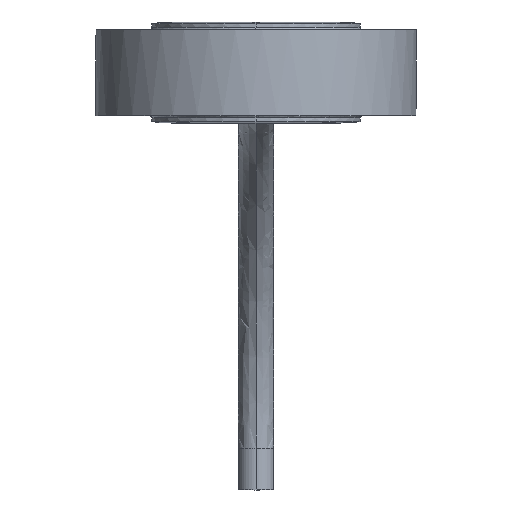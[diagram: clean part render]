
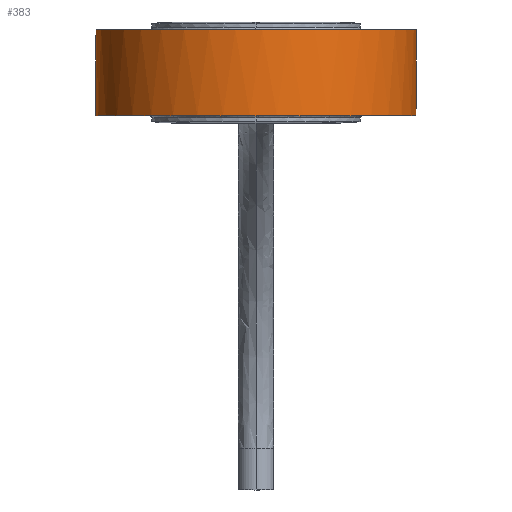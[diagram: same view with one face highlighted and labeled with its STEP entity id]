
A CAD part, front view. The second image highlights one B-rep face of the part: STEP entity #383.
In plain terms, the highlighted free-form (B-spline) face has degree [10, 1] with [11, 2] control points.
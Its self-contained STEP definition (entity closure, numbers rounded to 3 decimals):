
#14 = CARTESIAN_POINT ( 'NONE',  ( 3.25, 13.051, 3.438 ) ) ;
#30 = VERTEX_POINT ( 'NONE', #1847 ) ;
#72 = CARTESIAN_POINT ( 'NONE',  ( 3.25, 13.051, 7.85 ) ) ;
#101 = CARTESIAN_POINT ( 'NONE',  ( -3.25, 13.051, 0.65 ) ) ;
#130 = CARTESIAN_POINT ( 'NONE',  ( 1.719, 13.34, 7.994 ) ) ;
#207 = CARTESIAN_POINT ( 'NONE',  ( -3.25, 13.051, 4.25 ) ) ;
#251 = EDGE_CURVE ( 'NONE', #1606, #1219, #2437, .T. ) ;
#279 = EDGE_CURVE ( 'NONE', #332, #30, #2097, .T. ) ;
#305 = CARTESIAN_POINT ( 'NONE',  ( -17.105, 5.884, 0.506 ) ) ;
#332 = VERTEX_POINT ( 'NONE', #1323 ) ;
#348 = CARTESIAN_POINT ( 'NONE',  ( -19.693, -5.4, 7.994 ) ) ;
#369 = CARTESIAN_POINT ( 'NONE',  ( 3.25, 13.051, 0.65 ) ) ;
#378 = ORIENTED_EDGE ( 'NONE', *, *, #1006, .T. ) ;
#383 = ADVANCED_FACE ( 'NONE', ( #1990 ), #2642, .T. ) ;
#417 = CARTESIAN_POINT ( 'NONE',  ( 3.25, 13.051, 0.65 ) ) ;
#420 = CARTESIAN_POINT ( 'NONE',  ( 3.25, 13.051, 7.85 ) ) ;
#478 = CARTESIAN_POINT ( 'NONE',  ( 10.813, 11.168, 7.85 ) ) ;
#538 = EDGE_CURVE ( 'NONE', #2696, #332, #1870, .T. ) ;
#552 = LINE ( 'NONE', #2011, #652 ) ;
#627 = CARTESIAN_POINT ( 'NONE',  ( 10.813, 11.168, 0.65 ) ) ;
#639 = VECTOR ( 'NONE', #992, 1000. ) ;
#648 = ORIENTED_EDGE ( 'NONE', *, *, #1309, .T. ) ;
#652 = VECTOR ( 'NONE', #1152, 1000. ) ;
#680 = VERTEX_POINT ( 'NONE', #929 ) ;
#733 = LINE ( 'NONE', #2422, #1836 ) ;
#801 = DIRECTION ( 'NONE',  ( 0., 0., 1. ) ) ;
#834 = CARTESIAN_POINT ( 'NONE',  ( -18.772, -6.331, 0.65 ) ) ;
#839 = LINE ( 'NONE', #14, #2391 ) ;
#912 = CARTESIAN_POINT ( 'NONE',  ( 18.761, -6.332, 7.85 ) ) ;
#923 = CARTESIAN_POINT ( 'NONE',  ( 17.161, 4.414, 7.85 ) ) ;
#927 = CARTESIAN_POINT ( 'NONE',  ( 9.759, 12.304, 0.506 ) ) ;
#929 = CARTESIAN_POINT ( 'NONE',  ( 3.25, 13.051, 5.062 ) ) ;
#941 = CARTESIAN_POINT ( 'NONE',  ( -9.759, 12.304, 0.506 ) ) ;
#956 = CARTESIAN_POINT ( 'NONE',  ( -0.042, -23.524, 0.506 ) ) ;
#968 = CARTESIAN_POINT ( 'NONE',  ( -13.989, -17.502, 0.506 ) ) ;
#992 = DIRECTION ( 'NONE',  ( 0., 0., -1. ) ) ;
#1006 = EDGE_CURVE ( 'NONE', #1782, #1606, #733, .T. ) ;
#1039 = EDGE_CURVE ( 'NONE', #680, #2696, #552, .T. ) ;
#1049 = DIRECTION ( 'NONE',  ( 0., 0., -1. ) ) ;
#1118 = VECTOR ( 'NONE', #801, 1000. ) ;
#1152 = DIRECTION ( 'NONE',  ( 0., 0., 1. ) ) ;
#1186 = CARTESIAN_POINT ( 'NONE',  ( -19.693, -5.4, 0.506 ) ) ;
#1202 = CARTESIAN_POINT ( 'NONE',  ( 1.719, 13.34, 0.506 ) ) ;
#1211 = LINE ( 'NONE', #1399, #639 ) ;
#1219 = VERTEX_POINT ( 'NONE', #2450 ) ;
#1252 = CARTESIAN_POINT ( 'NONE',  ( 18.761, -6.332, 0.65 ) ) ;
#1269 = CARTESIAN_POINT ( 'NONE',  ( -3.25, 13.051, 0.65 ) ) ;
#1272 = EDGE_CURVE ( 'NONE', #30, #1782, #1211, .T. ) ;
#1309 = EDGE_CURVE ( 'NONE', #1219, #2596, #2064, .T. ) ;
#1314 = CARTESIAN_POINT ( 'NONE',  ( 12.912, -17.257, 7.85 ) ) ;
#1323 = CARTESIAN_POINT ( 'NONE',  ( -3.25, 13.051, 7.85 ) ) ;
#1351 = CARTESIAN_POINT ( 'NONE',  ( -13.989, -17.502, 7.994 ) ) ;
#1393 = CARTESIAN_POINT ( 'NONE',  ( -0.042, -23.524, 7.994 ) ) ;
#1395 = ORIENTED_EDGE ( 'NONE', *, *, #251, .T. ) ;
#1399 = CARTESIAN_POINT ( 'NONE',  ( -3.25, 13.051, 4.25 ) ) ;
#1401 = VECTOR ( 'NONE', #1049, 1000. ) ;
#1426 = ORIENTED_EDGE ( 'NONE', *, *, #2484, .T. ) ;
#1555 = DIRECTION ( 'NONE',  ( 0., 0., -1. ) ) ;
#1559 = CARTESIAN_POINT ( 'NONE',  ( -12.87, -17.257, 7.85 ) ) ;
#1565 = CARTESIAN_POINT ( 'NONE',  ( 3.25, 13.051, 3.438 ) ) ;
#1575 = ORIENTED_EDGE ( 'NONE', *, *, #1272, .T. ) ;
#1606 = VERTEX_POINT ( 'NONE', #101 ) ;
#1617 = CARTESIAN_POINT ( 'NONE',  ( 19.671, -5.401, 0.506 ) ) ;
#1670 = CARTESIAN_POINT ( 'NONE',  ( -3.25, 13.051, 3.438 ) ) ;
#1672 = CARTESIAN_POINT ( 'NONE',  ( 12.912, -17.257, 0.65 ) ) ;
#1692 = ORIENTED_EDGE ( 'NONE', *, *, #1039, .T. ) ;
#1719 = CARTESIAN_POINT ( 'NONE',  ( -17.163, 4.414, 0.65 ) ) ;
#1755 = CARTESIAN_POINT ( 'NONE',  ( -0.03, -22.429, 7.85 ) ) ;
#1758 = EDGE_LOOP ( 'NONE', ( #648, #1426, #1692, #2223, #2584, #1575, #378, #1395 ) ) ;
#1765 = CARTESIAN_POINT ( 'NONE',  ( -3.25, 13.051, 7.85 ) ) ;
#1769 = CARTESIAN_POINT ( 'NONE',  ( -9.759, 12.304, 7.994 ) ) ;
#1782 = VERTEX_POINT ( 'NONE', #1670 ) ;
#1798 = CARTESIAN_POINT ( 'NONE',  ( 17.105, 5.884, 0.506 ) ) ;
#1836 = VECTOR ( 'NONE', #1555, 1000. ) ;
#1847 = CARTESIAN_POINT ( 'NONE',  ( -3.25, 13.051, 5.062 ) ) ;
#1870 = B_SPLINE_CURVE_WITH_KNOTS ( 'NONE', 10,
 ( #72, #478, #923, #912, #1314, #1755, #1559, #2154, #2592, #1938, #1765 ),
 .UNSPECIFIED., .F., .F.,
 ( 11, 11 ),
 ( 0., 0.078 ),
 .UNSPECIFIED. ) ;
#1879 = CARTESIAN_POINT ( 'NONE',  ( -10.813, 11.168, 0.65 ) ) ;
#1938 = CARTESIAN_POINT ( 'NONE',  ( -10.813, 11.168, 7.85 ) ) ;
#1990 = FACE_OUTER_BOUND ( 'NONE', #1758, .T. ) ;
#2004 = CARTESIAN_POINT ( 'NONE',  ( 17.105, 5.884, 7.994 ) ) ;
#2011 = CARTESIAN_POINT ( 'NONE',  ( 3.25, 13.051, 5.062 ) ) ;
#2030 = CARTESIAN_POINT ( 'NONE',  ( -17.105, 5.884, 7.994 ) ) ;
#2064 = LINE ( 'NONE', #369, #1118 ) ;
#2088 = DIRECTION ( 'NONE',  ( 0., 0., 1. ) ) ;
#2097 = LINE ( 'NONE', #207, #1401 ) ;
#2154 = CARTESIAN_POINT ( 'NONE',  ( -18.772, -6.331, 7.85 ) ) ;
#2192 = CARTESIAN_POINT ( 'NONE',  ( 9.759, 12.304, 7.994 ) ) ;
#2221 = CARTESIAN_POINT ( 'NONE',  ( -1.719, 13.34, 7.994 ) ) ;
#2223 = ORIENTED_EDGE ( 'NONE', *, *, #538, .T. ) ;
#2234 = CARTESIAN_POINT ( 'NONE',  ( 14.051, -17.502, 7.994 ) ) ;
#2317 = CARTESIAN_POINT ( 'NONE',  ( -12.87, -17.257, 0.65 ) ) ;
#2391 = VECTOR ( 'NONE', #2088, 1000. ) ;
#2422 = CARTESIAN_POINT ( 'NONE',  ( -3.25, 13.051, 4.25 ) ) ;
#2437 = B_SPLINE_CURVE_WITH_KNOTS ( 'NONE', 10,
 ( #1269, #1879, #1719, #834, #2317, #2522, #1672, #1252, #2507, #627, #417 ),
 .UNSPECIFIED., .F., .F.,
 ( 11, 11 ),
 ( 0., 0.078 ),
 .UNSPECIFIED. ) ;
#2444 = CARTESIAN_POINT ( 'NONE',  ( 14.051, -17.502, 0.506 ) ) ;
#2450 = CARTESIAN_POINT ( 'NONE',  ( 3.25, 13.051, 0.65 ) ) ;
#2458 = CARTESIAN_POINT ( 'NONE',  ( -1.719, 13.34, 0.506 ) ) ;
#2484 = EDGE_CURVE ( 'NONE', #2596, #680, #839, .T. ) ;
#2507 = CARTESIAN_POINT ( 'NONE',  ( 17.161, 4.414, 0.65 ) ) ;
#2522 = CARTESIAN_POINT ( 'NONE',  ( -0.03, -22.429, 0.65 ) ) ;
#2584 = ORIENTED_EDGE ( 'NONE', *, *, #279, .T. ) ;
#2592 = CARTESIAN_POINT ( 'NONE',  ( -17.163, 4.414, 7.85 ) ) ;
#2596 = VERTEX_POINT ( 'NONE', #1565 ) ;
#2635 = CARTESIAN_POINT ( 'NONE',  ( 19.671, -5.401, 7.994 ) ) ;
#2642 = B_SPLINE_SURFACE_WITH_KNOTS ( 'NONE', 10, 1, ( 
 ( #130, #1202 ),
 ( #2192, #927 ),
 ( #2004, #1798 ),
 ( #2635, #1617 ),
 ( #2234, #2444 ),
 ( #1393, #956 ),
 ( #1351, #968 ),
 ( #348, #1186 ),
 ( #2030, #305 ),
 ( #1769, #941 ),
 ( #2221, #2458 ) ),
 .UNSPECIFIED., .F., .F., .F.,
 ( 11, 11 ),
 ( 2, 2 ),
 ( -6.155, -0.128 ),
 ( 0.216, 7.704 ),
 .UNSPECIFIED. ) ;
#2696 = VERTEX_POINT ( 'NONE', #420 ) ;
